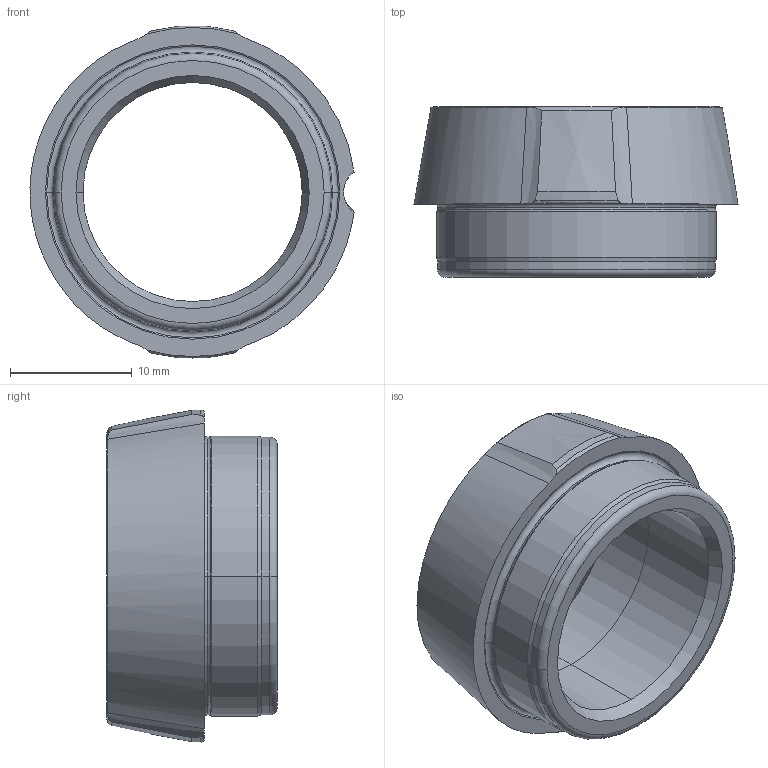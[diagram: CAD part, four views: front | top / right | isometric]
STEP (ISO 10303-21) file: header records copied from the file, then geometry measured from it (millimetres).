
FILE_DESCRIPTION (( 'STEP AP203' ), '1' );
FILE_NAME ('VXF0160-PC.STEP', '2014-11-25T05:02:51', ( '0393' ), ( 'Hewlett-Packard Company' ), 'SwSTEP 2.0', 'SolidWorks 2013', '' );
FILE_SCHEMA (( 'CONFIG_CONTROL_DESIGN' ));
Length unit declared in the file: millimetre
Products named in the file (1): VXF0160-PC
Bounding box: 26.61 x 14 x 27.27 mm (x, y, z)
Volume: 2914.6 mm3; surface area: 2296.1 mm2
Topology: 1 solids, 1 shells, 42 faces, 103 edges, 64 vertices
Faces by surface type: cone 16, cylinder 11, torus 10, plane 3, bspline 2
Entity records: 1533 total; most frequent: CARTESIAN_POINT 480, DIRECTION 208, ORIENTED_EDGE 206, EDGE_CURVE 103, AXIS2_PLACEMENT_3D 94, VERTEX_POINT 64, CIRCLE 53, EDGE_LOOP 45
